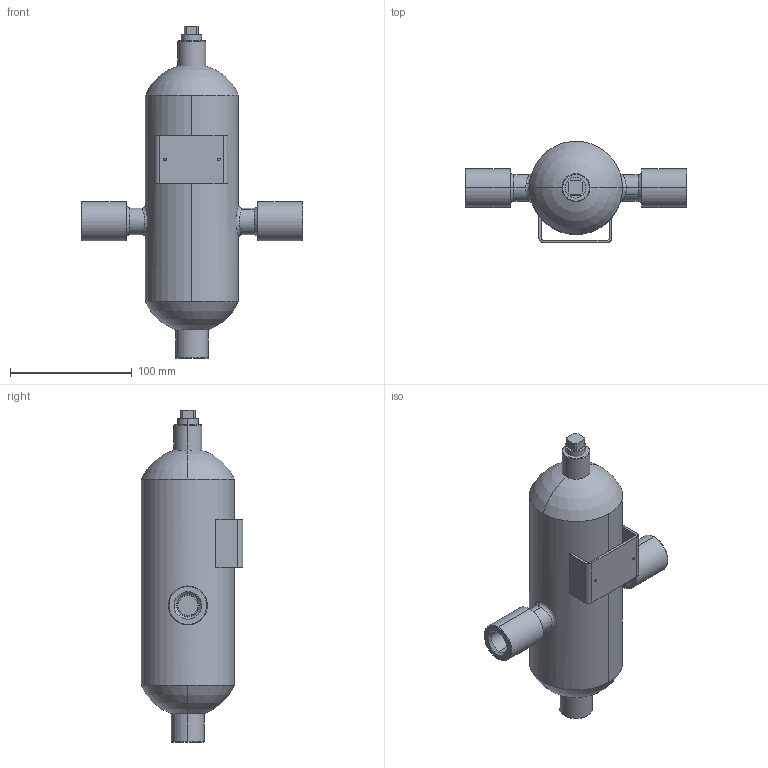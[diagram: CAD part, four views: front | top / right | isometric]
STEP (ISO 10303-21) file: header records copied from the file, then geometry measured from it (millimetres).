
FILE_DESCRIPTION( (''), '2;1');
FILE_NAME ('PC2078.19660.DS-10 15A_9464.stp','2026-03-10T12:49:35',(''),(''),'spGate 20.6.3 (****-****-****-****)','','');
FILE_SCHEMA (('AUTOMOTIVE_DESIGN'));
Length unit declared in the file: millimetre
Products named in the file (3): Assembly; 10Aプラグ; 15A JISRc
Assembly tree (2 placements, depth 2):
  Assembly
    10Aプラグ
    15A JISRc
Bounding box: 181.95 x 83.06 x 272.3 mm (x, y, z)
Volume: 315598.5 mm3; surface area: 160965.7 mm2
Topology: 2 solids, 2 shells, 153 faces, 374 edges, 240 vertices
Faces by surface type: plane 79, cylinder 38, bspline 28, sphere 8
Entity records: 8865 total; most frequent: CARTESIAN_POINT 2328, ORIENTED_EDGE 748, DIRECTION 666, COLOUR_RGB 529, PRESENTATION_STYLE_ASSIGNMENT 529, STYLED_ITEM 529, EDGE_CURVE 374, DRAUGHTING_PRE_DEFINED_CURVE_FONT 374
